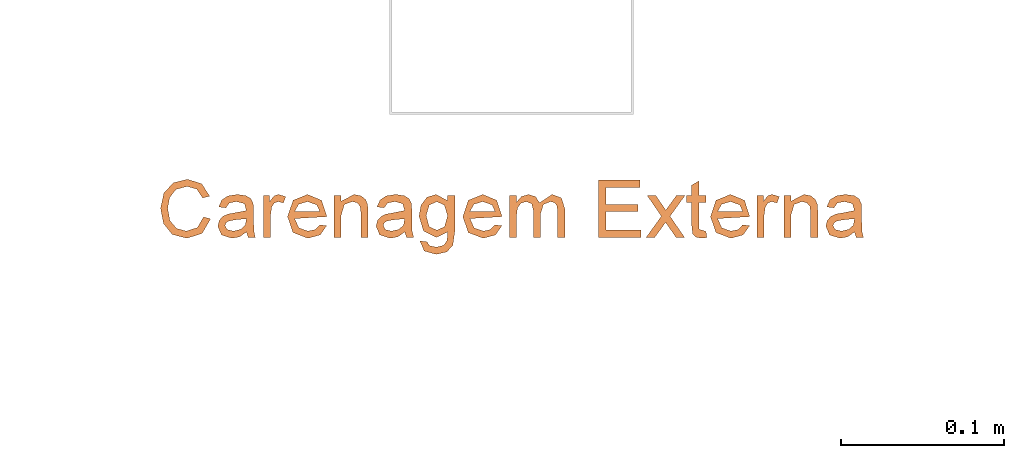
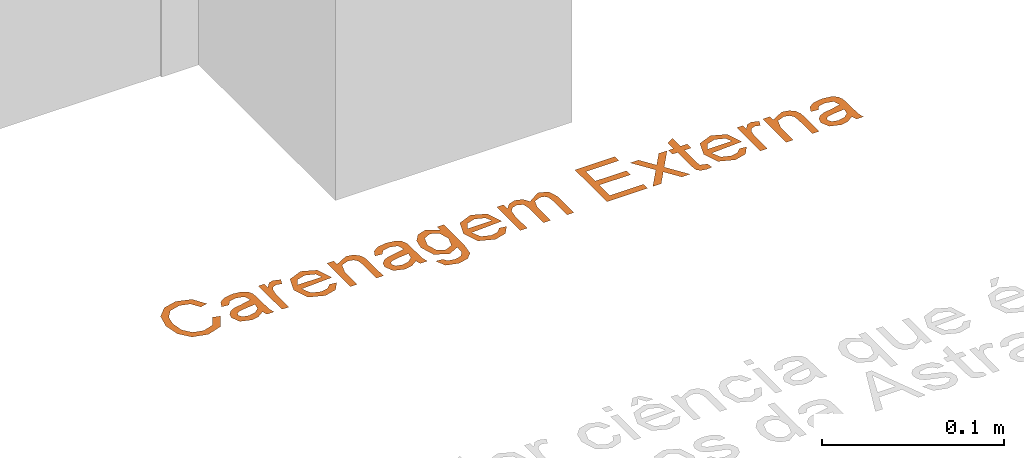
# One storey, part 4 of 5: 1 proxy.
"""IFC2X3 building model written with IfcOpenShell, lengths in millimetres."""

import ifcopenshell
import ifcopenshell.guid

model = None  # the IFC model being written
_history = None  # IfcOwnerHistory: only IFC2X3 demands one
_inside = {}  # id of a spatial element -> (the spatial element, [elements in it])
_under = {}  # id of a project, library or spatial element -> (it, [spatial elements below it])
_declared = {}  # id of a project -> (the project, [libraries it declares])
_typed = {}  # id of a type object -> (the type object, [elements of that type])
_made_of = {}  # id of a material, layer set ... -> (it, [elements and type objects made of it])


def new_model(schema):
    """Start an empty IFC model of exactly this schema.

    Asked for "IFC4X3", IfcOpenShell would pick the latest addendum, in which some entities
    have other attributes; the version numbers below select the first issue.
    IFC2X3 requires an IfcOwnerHistory on every rooted entity: one is made here for all.
    """
    global model, _history
    if schema == "IFC4X3":
        model = ifcopenshell.file(schema_version=(4, 3, 0, 0))
    else:
        model = ifcopenshell.file(schema=schema)
    _inside.clear()
    _under.clear()
    _declared.clear()
    _typed.clear()
    _made_of.clear()
    _history = None
    if model.schema == "IFC2X3":
        org = make("IfcOrganization", Name="unknown")
        user = make(
            "IfcPersonAndOrganization",
            ThePerson=make("IfcPerson", FamilyName="unknown"),
            TheOrganization=org,
        )
        app = make(
            "IfcApplication",
            ApplicationDeveloper=org,
            Version="unknown",
            ApplicationFullName="unknown",
            ApplicationIdentifier="unknown",
        )
        _history = make(
            "IfcOwnerHistory",
            OwningUser=user,
            OwningApplication=app,
            ChangeAction="ADDED",
            CreationDate=0,
        )
    return model


def make(cls, **values):
    """One entity of the class cls with the attributes given. An attribute that is None is left unset."""
    return model.create_entity(
        cls, **{name: value for name, value in values.items() if value is not None}
    )


def entity(cls, *values):
    """Any entity or typed value of the class cls, its attributes in the order of the schema. None: left unset."""
    e = model.create_entity(cls)
    for i, value in enumerate(values):
        if value is not None:
            e[i] = value
    return e


def rooted(cls, **values):
    """An entity with a GlobalId (a new one), such as an element, a storey or a relation."""
    return make(cls, GlobalId=ifcopenshell.guid.new(), OwnerHistory=_history, **values)


def si_unit(unit_type, name, prefix=None):
    """IfcSIUnit, for example si_unit("LENGTHUNIT", "METRE", prefix="MILLI")."""
    return make("IfcSIUnit", UnitType=unit_type, Prefix=prefix, Name=name)


def converted_unit(unit_type, name, factor, base, dimensions=None, offset=None):
    """IfcConversionBasedUnit, such as the inch: factor (a typed value) times the base unit."""
    return make(
        "IfcConversionBasedUnit"
        if offset is None
        else "IfcConversionBasedUnitWithOffset",
        ConversionOffset=offset,
        Dimensions=None
        if dimensions is None
        else entity("IfcDimensionalExponents", *dimensions),
        UnitType=unit_type,
        Name=name,
        ConversionFactor=make(
            "IfcMeasureWithUnit", ValueComponent=factor, UnitComponent=base
        ),
    )


def derived_unit(unit_type, elements):
    """IfcDerivedUnit: a product of units, each with its exponent."""
    return make(
        "IfcDerivedUnit",
        Elements=[
            make("IfcDerivedUnitElement", Unit=unit, Exponent=power)
            for unit, power in elements
        ],
        UnitType=unit_type,
    )


def assignment(units):
    """IfcUnitAssignment: the units of a project."""
    return None if units is None else make("IfcUnitAssignment", Units=units)


def point(xyz):
    """IfcCartesianPoint."""
    return None if xyz is None else make("IfcCartesianPoint", Coordinates=xyz)


def direction(xyz):
    """IfcDirection."""
    return None if xyz is None else make("IfcDirection", DirectionRatios=xyz)


def frame(location, z_axis=None, x_axis=None):
    """IfcAxis2Placement3D, a coordinate frame: its origin and axes. An axis left out is left unset."""
    return make(
        "IfcAxis2Placement3D",
        Location=point(location),
        Axis=direction(z_axis),
        RefDirection=direction(x_axis),
    )


def origin():
    """The frame at (0, 0, 0) with its axes left unset."""
    return frame((0.0, 0.0, 0.0))


def place(relative_to, where):
    """IfcLocalPlacement: puts the frame where relative to a parent placement (None: the world)."""
    return make(
        "IfcLocalPlacement", PlacementRelTo=relative_to, RelativePlacement=where
    )


def context(
    kind, dimensions, precision=None, world=None, true_north=None, identifier=None
):
    """IfcGeometricRepresentationContext, for example the 3D "Model" context."""
    return make(
        "IfcGeometricRepresentationContext",
        ContextIdentifier=identifier,
        ContextType=kind,
        CoordinateSpaceDimension=dimensions,
        Precision=precision,
        WorldCoordinateSystem=world,
        TrueNorth=true_north,
    )


def subcontext(parent, identifier, kind, view, scale=None):
    """IfcGeometricRepresentationSubContext, for example "Body" below "Model"."""
    return make(
        "IfcGeometricRepresentationSubContext",
        ContextIdentifier=identifier,
        ContextType=kind,
        ParentContext=parent,
        TargetScale=scale,
        TargetView=view,
    )


def project(units=None, contexts=None):
    """IfcProject with its units and contexts."""
    return rooted(
        "IfcProject",
        Name="project",
        RepresentationContexts=contexts,
        UnitsInContext=assignment(units),
    )


def spatial(cls, under=None, at=None, **own):
    """A site, building, storey or space (cls), placed at a placement, below another one or the project."""
    s = rooted(cls, ObjectPlacement=at, **own)
    if under is not None:
        _under.setdefault(under.id(), (under, []))[1].append(s)
    return s


def faces_of(points, faces, orient=None, outer=None):
    """IfcFace entities. A face is a list of loops; a loop is a list of indices into points, from 0.

    orient and outer hold one flag for each loop. By default every Orientation is true, the
    first loop of a face is its IfcFaceOuterBound and the others are IfcFaceBound.
    """
    made = []
    for i, loops in enumerate(faces):
        bounds = []
        for j, loop in enumerate(loops):
            is_outer = j == 0 if outer is None else outer[i][j]
            bounds.append(
                make(
                    "IfcFaceOuterBound" if is_outer else "IfcFaceBound",
                    Bound=make("IfcPolyLoop", Polygon=[points[k] for k in loop]),
                    Orientation=True if orient is None else orient[i][j],
                )
            )
        made.append(make("IfcFace", Bounds=bounds))
    return made


def face_set(faces, orient=None, outer=None):
    """The faces of one IfcConnectedFaceSet. surface_model builds it on its shared points."""
    return ("IfcConnectedFaceSet", faces, orient, outer)


def surface_model(cls, points, shells):
    """IfcFaceBasedSurfaceModel or IfcShellBasedSurfaceModel (cls): surfaces that need not close."""
    shared = [point(p) for p in points]
    made = [make(c, CfsFaces=faces_of(shared, fs, o, b)) for c, fs, o, b in shells]
    if cls == "IfcFaceBasedSurfaceModel":
        return make(cls, FbsmFaces=made)
    return make(cls, SbsmBoundary=made)


def shape(context_of_items, identifier, shape_type, items):
    """IfcShapeRepresentation: the items that make up one representation, for example the "Body"."""
    return make(
        "IfcShapeRepresentation",
        ContextOfItems=context_of_items,
        RepresentationIdentifier=identifier,
        RepresentationType=shape_type,
        Items=items,
    )


def made_of(thing, what):
    """Note that an element or type object is made of a material, layer set ...; save() writes the relation."""
    if what is not None:
        _made_of.setdefault(what.id(), (what, []))[1].append(thing)
    return thing


def type_object(cls, material=None, **own):
    """A type object (cls), such as IfcWallType, which elements share."""
    return made_of(rooted(cls, **own), material)


def element(
    cls,
    number,
    at=None,
    inside=None,
    cuts=None,
    type_object=None,
    material=None,
    context=None,
    identifier="Body",
    shape_type=None,
    held_by="IfcProductDefinitionShape",
    body=None,
    shapes=None,
    **own,
):
    """One element of the class cls, such as IfcWall. Its Tag is "e" and its number.

    at: its placement. inside: the storey or other place that contains it. cuts: it is an
    opening in that element (IfcRelVoidsElement). A single representation is given by context,
    identifier, shape_type and body (its items); several are given by shapes. held_by: the class
    of the entity that holds the representations. save() writes the other relations.
    """
    e = rooted(cls, Tag="e%d" % number, ObjectPlacement=at, **own)
    if body is not None:
        shapes = [shape(context, identifier, shape_type, body)]
    if shapes is not None:
        e.Representation = make(held_by, Representations=shapes)
    if inside is not None:
        _inside.setdefault(inside.id(), (inside, []))[1].append(e)
    if cuts is not None:
        rooted(
            "IfcRelVoidsElement", RelatingBuildingElement=cuts, RelatedOpeningElement=e
        )
    if type_object is not None:
        _typed.setdefault(type_object.id(), (type_object, []))[1].append(e)
    return made_of(e, material)


def aggregate(whole, parts):
    """IfcRelAggregates: a whole, such as a stair, and the parts it consists of."""
    return rooted("IfcRelAggregates", RelatingObject=whole, RelatedObjects=parts)


def save(model, path):
    """Write the relations noted so far, then the file.

    IfcRelAggregates (storeys below a building ...), IfcRelContainedInSpatialStructure (elements
    in a storey), IfcRelDefinesByType, IfcRelAssociatesMaterial and IfcRelDeclares: one each for
    every whole, place, type object, material and project.
    """
    for whole, parts in _under.values():
        aggregate(whole, parts)
    for where, things in _inside.values():
        rooted(
            "IfcRelContainedInSpatialStructure",
            RelatedElements=things,
            RelatingStructure=where,
        )
    for kind, things in _typed.values():
        rooted("IfcRelDefinesByType", RelatedObjects=things, RelatingType=kind)
    for what, things in _made_of.values():
        rooted("IfcRelAssociatesMaterial", RelatedObjects=things, RelatingMaterial=what)
    for by, libraries in _declared.values():
        rooted("IfcRelDeclares", RelatingContext=by, RelatedDefinitions=libraries)
    model.write(path)


model = new_model("IFC2X3")

# Units and contexts
model_context = context("Model", 3, precision=0.01, world=origin(), true_north=direction((6.12303176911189e-17, 1.0)))
body_context = subcontext(model_context, "Body", "Model", "MODEL_VIEW")
ifc_project = project(units=[si_unit("LENGTHUNIT", "METRE", prefix="MILLI"), si_unit("AREAUNIT", "SQUARE_METRE"), si_unit("VOLUMEUNIT", "CUBIC_METRE"), converted_unit("PLANEANGLEUNIT", "DEGREE", entity("IfcRatioMeasure", 0.0174532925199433), si_unit("PLANEANGLEUNIT", "RADIAN"), dimensions=[0, 0, 0, 0, 0, 0, 0]), si_unit("MASSUNIT", "GRAM", prefix="KILO"), derived_unit("MASSDENSITYUNIT", [(si_unit("MASSUNIT", "GRAM", prefix="KILO"), 1), (si_unit("LENGTHUNIT", "METRE"), -3)]), derived_unit("MOMENTOFINERTIAUNIT", [(si_unit("LENGTHUNIT", "METRE"), 4)]), si_unit("TIMEUNIT", "SECOND"), si_unit("FREQUENCYUNIT", "HERTZ"), si_unit("THERMODYNAMICTEMPERATUREUNIT", "DEGREE_CELSIUS"), derived_unit("THERMALTRANSMITTANCEUNIT", [(si_unit("MASSUNIT", "GRAM", prefix="KILO"), 1), (si_unit("THERMODYNAMICTEMPERATUREUNIT", "KELVIN"), -1), (si_unit("TIMEUNIT", "SECOND"), -3)]), derived_unit("VOLUMETRICFLOWRATEUNIT", [(si_unit("LENGTHUNIT", "METRE"), 3), (si_unit("TIMEUNIT", "SECOND"), -1)]), si_unit("ELECTRICCURRENTUNIT", "AMPERE"), si_unit("ELECTRICVOLTAGEUNIT", "VOLT"), si_unit("POWERUNIT", "WATT"), si_unit("FORCEUNIT", "NEWTON", prefix="KILO"), si_unit("ILLUMINANCEUNIT", "LUX"), si_unit("LUMINOUSFLUXUNIT", "LUMEN"), si_unit("LUMINOUSINTENSITYUNIT", "CANDELA"), derived_unit("USERDEFINED", [(si_unit("MASSUNIT", "GRAM", prefix="KILO"), -1), (si_unit("LENGTHUNIT", "METRE"), -2), (si_unit("TIMEUNIT", "SECOND"), 3), (si_unit("LUMINOUSFLUXUNIT", "LUMEN"), 1)]), derived_unit("LINEARVELOCITYUNIT", [(si_unit("LENGTHUNIT", "METRE"), 1), (si_unit("TIMEUNIT", "SECOND"), -1)]), si_unit("PRESSUREUNIT", "PASCAL"), derived_unit("USERDEFINED", [(si_unit("LENGTHUNIT", "METRE"), -2), (si_unit("MASSUNIT", "GRAM", prefix="KILO"), 1), (si_unit("TIMEUNIT", "SECOND"), -2)]), derived_unit("LINEARFORCEUNIT", [(si_unit("MASSUNIT", "GRAM", prefix="KILO"), 1), (si_unit("LENGTHUNIT", "METRE"), 1), (si_unit("TIMEUNIT", "SECOND"), -2), (si_unit("LENGTHUNIT", "METRE"), -1)]), derived_unit("PLANARFORCEUNIT", [(si_unit("MASSUNIT", "GRAM", prefix="KILO"), 1), (si_unit("LENGTHUNIT", "METRE"), 1), (si_unit("TIMEUNIT", "SECOND"), -2), (si_unit("LENGTHUNIT", "METRE"), -2)])], contexts=[model_context])

# Site, building, storey
site_placement = place(None, origin())
site = spatial("IfcSite", under=ifc_project, at=site_placement, Name="Default", CompositionType="ELEMENT")
building_placement = place(site_placement, origin())
building = spatial("IfcBuilding", under=site, at=building_placement, CompositionType="ELEMENT")
storey_placement = place(building_placement, origin())
storey = spatial("IfcBuildingStorey", under=building, at=storey_placement, Name="Vista Principal", CompositionType="ELEMENT", Elevation=0.0)

# Proxy
building_element_proxy_type = type_object("IfcBuildingElementProxyType", Name="Texto do modelo:600mm Arial", PredefinedType="NOTDEFINED")
proxy_placement = place(storey_placement, frame((-10837.4119871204, 5328.07441846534, 0.0)))
element("IfcBuildingElementProxy", 1, at=proxy_placement, inside=storey, type_object=building_element_proxy_type, Name="Texto do modelo:600mm Arial", ObjectType="Texto do modelo:600mm Arial", context=body_context, shape_type="SurfaceModel", body=[
    surface_model("IfcFaceBasedSurfaceModel", [(26.3697814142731, 22.9362161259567, 0.0), (22.6400711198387, 16.4639455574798, 0.0), (15.9145751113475, 14.2836315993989, 0.0), (9.85004042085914, 15.8845314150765, 0.0), (5.72117816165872, 20.7215665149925, 0.0), (4.39496356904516, 28.2925779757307, 0.0), (5.51516424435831, 34.824935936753, 0.0), (9.39938497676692, 39.8722769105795, 0.0), (16.2750994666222, 41.7521539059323, 0.0), (22.2151674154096, 40.0568310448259, 0.0), (25.8204109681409, 34.6532576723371, 0.0), (30.2153745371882, 35.7004950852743, 0.0), (25.24958073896, 43.4088491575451, 0.0), (16.446777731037, 46.1471174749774, 0.0), (8.00020712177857, 44.0311828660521, 0.0), (2.08159895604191, 37.8378894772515, 0.0), (0.0, 28.2839940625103, 0.0), (1.84124938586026, 18.8846090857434, 0.0), (7.20619514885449, 12.1977406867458, 0.0), (16.3523546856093, 9.88866803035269, 0.0), (25.5543096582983, 12.9402491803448, 0.0), (30.7647449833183, 21.803139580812, 0.0), (52.7395628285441, 13.7342611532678, 0.0), (53.8383037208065, 10.4380384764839, 0.0), (58.2332672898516, 10.4380384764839, 0.0), (57.3577081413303, 14.1334131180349, 0.0), (57.1345263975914, 21.7688039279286, 0.0), (57.1345263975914, 27.2367566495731, 0.0), (56.9199285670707, 31.0823497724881, 0.0), (55.5722541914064, 34.0652596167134, 0.0), (52.5635926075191, 36.0266837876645, 0.0), (47.2372744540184, 36.8078198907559, 0.0), (41.4388410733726, 35.9236768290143, 0.0), (37.6104157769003, 33.4085902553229, 0.0), (35.7090789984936, 29.1166336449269, 0.0), (40.1040425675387, 28.5672631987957, 0.0), (42.2242691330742, 31.5673408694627, 0.0), (46.6707361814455, 32.4128563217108, 0.0), (51.5292310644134, 31.1424371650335, 0.0), (52.7138110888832, 26.9191518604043, 0.0), (45.0912961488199, 25.4083831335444, 0.0), (41.2886225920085, 24.7474218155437, 0.0), (38.2112897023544, 23.3053243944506, 0.0), (36.0009320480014, 20.7816539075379, 0.0), (35.1597085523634, 17.3051690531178, 0.0), (37.3872340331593, 11.9745589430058, 0.0), (43.7693735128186, 9.88866803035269, 0.0), (48.4776499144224, 10.7556432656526, 0.0), (52.7266869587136, 21.901854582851, 0.0), (52.0185141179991, 17.8802912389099, 0.0), (49.1514871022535, 15.3351609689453, 0.0), (44.7050200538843, 14.2836315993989, 0.0), (40.8637188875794, 15.2364459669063, 0.0), (39.5546721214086, 17.6141899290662, 0.0), (40.1555460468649, 19.3052208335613, 0.0), (41.8680367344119, 20.4640491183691, 0.0), (45.6492505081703, 21.1765139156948, 0.0), (63.1776013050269, 10.4380384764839, 0.0), (67.5725648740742, 10.4380384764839, 0.0), (67.5725648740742, 24.009205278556, 0.0), (68.2850296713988, 29.1423853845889, 0.0), (69.8687616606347, 31.5458810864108, 0.0), (72.3538045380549, 32.4128563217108, 0.0), (75.4440132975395, 31.5115454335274, 0.0), (76.9118624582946, 35.4515616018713, 0.0), (72.4997310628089, 36.8078198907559, 0.0), (69.752878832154, 35.9580124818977, 0.0), (67.0231944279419, 32.4386080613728, 0.0), (67.0231944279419, 36.2584494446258, 0.0), (63.1776013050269, 36.2584494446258, 0.0), (97.7364359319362, 18.1292247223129, 0.0), (94.9037445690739, 15.2021103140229, 0.0), (90.5946201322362, 14.2836315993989, 0.0), (84.933529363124, 16.2665155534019, 0.0), (82.4055669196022, 21.974817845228, 0.0), (102.182902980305, 23.1593978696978, 0.0), (98.8480526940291, 33.2283280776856, 0.0), (90.2598475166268, 36.8078198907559, 0.0), (81.4184168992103, 33.2197441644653, 0.0), (78.010603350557, 23.1336461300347, 0.0), (81.3840812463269, 13.369444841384, 0.0), (90.5087810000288, 9.88866803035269, 0.0), (98.0154131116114, 11.905887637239, 0.0), (102.045560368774, 17.5798542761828, 0.0), (82.4055669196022, 26.3697814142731, 0.0), (84.8305224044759, 30.7690369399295, 0.0), (90.242679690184, 32.4128563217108, 0.0), (96.0282372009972, 30.3527171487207, 0.0), (97.7879394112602, 26.3697814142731, 0.0), (106.577866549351, 10.4380384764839, 0.0), (110.972830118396, 10.4380384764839, 0.0), (110.972830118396, 24.1379639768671, 0.0), (112.977173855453, 30.6874897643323, 0.0), (117.745537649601, 32.4128563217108, 0.0), (120.762783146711, 31.6445960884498, 0.0), (122.552529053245, 29.5887488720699, 0.0), (123.058979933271, 25.7002361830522, 0.0), (123.058979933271, 10.4380384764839, 0.0), (127.453943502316, 10.4380384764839, 0.0), (127.453943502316, 26.292526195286, 0.0), (127.222177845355, 30.5415632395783, 0.0), (125.904547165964, 33.7734065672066, 0.0), (123.071855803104, 35.9708883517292, 0.0), (118.92153376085, 36.8078198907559, 0.0), (110.972830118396, 32.6532058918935, 0.0), (110.972830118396, 36.2584494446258, 0.0), (106.577866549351, 36.2584494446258, 0.0), (149.978131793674, 13.7342611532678, 0.0), (151.076872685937, 10.4380384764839, 0.0), (155.471836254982, 10.4380384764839, 0.0), (154.59627710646, 14.1334131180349, 0.0), (154.373095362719, 21.7688039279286, 0.0), (154.373095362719, 27.2367566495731, 0.0), (154.158497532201, 31.0823497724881, 0.0), (152.810823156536, 34.0652596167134, 0.0), (149.802161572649, 36.0266837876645, 0.0), (144.475843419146, 36.8078198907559, 0.0), (138.677410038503, 35.9236768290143, 0.0), (134.848984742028, 33.4085902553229, 0.0), (132.947647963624, 29.1166336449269, 0.0), (137.342611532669, 28.5672631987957, 0.0), (139.462838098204, 31.5673408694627, 0.0), (143.909305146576, 32.4128563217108, 0.0), (148.767800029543, 31.1424371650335, 0.0), (149.952380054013, 26.9191518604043, 0.0), (142.32986511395, 25.4083831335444, 0.0), (138.527191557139, 24.7474218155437, 0.0), (135.449858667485, 23.3053243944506, 0.0), (133.239501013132, 20.7816539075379, 0.0), (132.398277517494, 17.3051690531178, 0.0), (134.625802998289, 11.9745589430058, 0.0), (141.007942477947, 9.88866803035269, 0.0), (145.716218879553, 10.7556432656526, 0.0), (149.965255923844, 21.901854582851, 0.0), (149.257083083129, 17.8802912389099, 0.0), (146.390056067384, 15.3351609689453, 0.0), (141.943589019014, 14.2836315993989, 0.0), (138.10228785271, 15.2364459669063, 0.0), (136.793241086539, 17.6141899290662, 0.0), (137.394115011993, 19.3052208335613, 0.0), (139.106605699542, 20.4640491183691, 0.0), (142.8878194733, 21.1765139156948, 0.0), (159.317429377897, 8.2405566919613, 0.0), (162.008486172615, 2.05584721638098, 0.0), (169.317688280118, 0.0, 0.0), (175.734163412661, 1.45926524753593, 0.0), (179.541128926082, 5.42932511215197, 0.0), (180.742876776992, 13.9660268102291, 0.0), (180.742876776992, 36.2584494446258, 0.0), (176.347913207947, 36.2584494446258, 0.0), (176.347913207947, 32.9622267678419, 0.0), (169.266184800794, 36.8078198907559, 0.0), (163.665181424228, 35.1082050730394, 0.0), (160.025602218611, 30.2883377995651, 0.0), (158.768058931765, 23.4770026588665, 0.0), (161.570706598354, 14.2750476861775, 0.0), (169.480782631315, 10.4380384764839, 0.0), (176.347913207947, 13.7342611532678, 0.0), (176.047476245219, 8.60966496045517, 0.0), (173.901497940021, 5.50228837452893, 0.0), (169.403527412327, 4.39496356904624, 0.0), (165.137322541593, 5.37352967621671, 0.0), (163.712392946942, 7.69118624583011, 0.0), (163.163022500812, 23.7774396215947, 0.0), (165.064359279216, 30.23683432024, 0.0), (169.678212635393, 32.4128563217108, 0.0), (174.390780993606, 30.2024986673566, 0.0), (176.347913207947, 23.6486809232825, 0.0), (174.446576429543, 16.9618125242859, 0.0), (169.746883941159, 14.833002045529, 0.0), (165.038607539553, 16.9746883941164, 0.0), (205.413043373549, 18.1292247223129, 0.0), (202.580352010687, 15.2021103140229, 0.0), (198.271227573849, 14.2836315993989, 0.0), (192.610136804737, 16.2665155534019, 0.0), (190.082174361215, 21.974817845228, 0.0), (209.859510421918, 23.1593978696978, 0.0), (206.52466013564, 33.2283280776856, 0.0), (197.936454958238, 36.8078198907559, 0.0), (189.095024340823, 33.2197441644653, 0.0), (185.687210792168, 23.1336461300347, 0.0), (189.06068868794, 13.369444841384, 0.0), (198.185388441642, 9.88866803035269, 0.0), (205.692020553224, 11.905887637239, 0.0), (209.722167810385, 17.5798542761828, 0.0), (190.082174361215, 26.3697814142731, 0.0), (192.507129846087, 30.7690369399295, 0.0), (197.919287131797, 32.4128563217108, 0.0), (203.70484464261, 30.3527171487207, 0.0), (205.464546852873, 26.3697814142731, 0.0), (214.254473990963, 10.4380384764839, 0.0), (218.649437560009, 10.4380384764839, 0.0), (218.649437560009, 23.4598348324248, 0.0), (219.318982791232, 28.7046058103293, 0.0), (221.482128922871, 31.4686258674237, 0.0), (224.73543203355, 32.4128563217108, 0.0), (228.070282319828, 30.9965106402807, 0.0), (229.087476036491, 26.7388896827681, 0.0), (229.087476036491, 10.4380384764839, 0.0), (233.482439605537, 10.4380384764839, 0.0), (233.482439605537, 25.0135231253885, 0.0), (235.203514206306, 30.6531541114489, 0.0), (239.525514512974, 32.4128563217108, 0.0), (242.036309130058, 31.7261432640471, 0.0), (243.512742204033, 29.9192295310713, 0.0), (243.920478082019, 26.2496066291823, 0.0), (243.920478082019, 10.4380384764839, 0.0), (248.315441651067, 10.4380384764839, 0.0), (248.315441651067, 28.1380675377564, 0.0), (246.302514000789, 34.6833013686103, 0.0), (240.55558409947, 36.8078198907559, 0.0), (232.795726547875, 31.700391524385, 0.0), (230.375063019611, 35.4644374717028, 0.0), (225.971515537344, 36.8078198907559, 0.0), (221.670975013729, 35.4901892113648, 0.0), (218.649437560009, 32.0094124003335, 0.0), (218.649437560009, 36.2584494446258, 0.0), (214.254473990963, 36.2584494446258, 0.0), (269.191518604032, 10.4380384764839, 0.0), (295.011929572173, 10.4380384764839, 0.0), (295.011929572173, 14.833002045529, 0.0), (273.586482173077, 14.833002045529, 0.0), (273.586482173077, 26.3697814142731, 0.0), (293.363818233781, 26.3697814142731, 0.0), (293.363818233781, 30.7647449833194, 0.0), (273.586482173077, 30.7647449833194, 0.0), (273.586482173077, 41.2027834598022, 0.0), (294.462559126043, 41.2027834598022, 0.0), (294.462559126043, 45.5977470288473, 0.0), (269.191518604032, 45.5977470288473, 0.0), (298.308152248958, 10.4380384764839, 0.0), (303.595842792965, 10.4380384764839, 0.0), (310.27412727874, 19.6657451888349, 0.0), (311.261277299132, 18.2408155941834, 0.0), (316.643390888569, 10.4380384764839, 0.0), (321.931081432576, 10.4380384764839, 0.0), (312.986643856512, 23.4169152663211, 0.0), (322.274437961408, 36.2584494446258, 0.0), (316.986747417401, 36.2584494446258, 0.0), (312.128252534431, 29.5458293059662, 0.0), (310.402885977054, 27.159501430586, 0.0), (308.411418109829, 30.0780319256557, 0.0), (304.145213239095, 36.2584494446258, 0.0), (298.857522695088, 36.2584494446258, 0.0), (307.698953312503, 23.4169152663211, 0.0), (335.115972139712, 14.1033694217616, 0.0), (330.952774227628, 15.3823724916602, 0.0), (330.721008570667, 17.6485255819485, 0.0), (330.721008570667, 31.8634858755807, 0.0), (335.115972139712, 31.8634858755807, 0.0), (335.115972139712, 36.2584494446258, 0.0), (330.721008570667, 36.2584494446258, 0.0), (330.721008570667, 45.1170478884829, 0.0), (326.326045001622, 42.5332900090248, 0.0), (326.326045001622, 36.2584494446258, 0.0), (323.029822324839, 36.2584494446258, 0.0), (323.029822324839, 31.8634858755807, 0.0), (326.326045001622, 31.8634858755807, 0.0), (326.326045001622, 17.5197668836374, 0.0), (326.858247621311, 12.5325133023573, 0.0), (328.695205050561, 10.6183006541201, 0.0), (332.37770382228, 9.88866803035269, 0.0), (335.665342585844, 10.3092797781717, 0.0), (357.588656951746, 18.1292247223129, 0.0), (354.755965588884, 15.2021103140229, 0.0), (350.446841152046, 14.2836315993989, 0.0), (344.785750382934, 16.2665155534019, 0.0), (342.257787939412, 21.974817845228, 0.0), (362.035124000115, 23.1593978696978, 0.0), (358.700273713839, 33.2283280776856, 0.0), (350.112068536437, 36.8078198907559, 0.0), (341.27063791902, 33.2197441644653, 0.0), (337.862824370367, 23.1336461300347, 0.0), (341.236302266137, 13.369444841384, 0.0), (350.361002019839, 9.88866803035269, 0.0), (357.867634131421, 11.905887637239, 0.0), (361.897781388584, 17.5798542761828, 0.0), (342.257787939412, 26.3697814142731, 0.0), (344.682743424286, 30.7690369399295, 0.0), (350.094900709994, 32.4128563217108, 0.0), (355.880458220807, 30.3527171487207, 0.0), (357.64016043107, 26.3697814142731, 0.0), (366.43008756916, 10.4380384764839, 0.0), (370.825051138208, 10.4380384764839, 0.0), (370.825051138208, 24.009205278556, 0.0), (371.537515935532, 29.1423853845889, 0.0), (373.121247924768, 31.5458810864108, 0.0), (375.606290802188, 32.4128563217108, 0.0), (378.696499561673, 31.5115454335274, 0.0), (380.164348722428, 35.4515616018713, 0.0), (375.75221732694, 36.8078198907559, 0.0), (373.005365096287, 35.9580124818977, 0.0), (370.275680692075, 32.4386080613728, 0.0), (370.275680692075, 36.2584494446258, 0.0), (366.43008756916, 36.2584494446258, 0.0), (382.911200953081, 10.4380384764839, 0.0), (387.306164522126, 10.4380384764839, 0.0), (387.306164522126, 24.1379639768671, 0.0), (389.310508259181, 30.6874897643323, 0.0), (394.078872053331, 32.4128563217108, 0.0), (397.096117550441, 31.6445960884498, 0.0), (398.885863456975, 29.5887488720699, 0.0), (399.392314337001, 25.7002361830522, 0.0), (399.392314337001, 10.4380384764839, 0.0), (403.787277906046, 10.4380384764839, 0.0), (403.787277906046, 26.292526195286, 0.0), (403.555512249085, 30.5415632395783, 0.0), (402.237881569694, 33.7734065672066, 0.0), (399.405190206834, 35.9708883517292, 0.0), (395.25486816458, 36.8078198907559, 0.0), (387.306164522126, 32.6532058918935, 0.0), (387.306164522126, 36.2584494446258, 0.0), (382.911200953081, 36.2584494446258, 0.0), (426.311466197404, 13.7342611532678, 0.0), (427.410207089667, 10.4380384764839, 0.0), (431.805170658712, 10.4380384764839, 0.0), (430.929611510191, 14.1334131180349, 0.0), (430.70642976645, 21.7688039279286, 0.0), (430.70642976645, 27.2367566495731, 0.0), (430.491831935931, 31.0823497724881, 0.0), (429.144157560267, 34.0652596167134, 0.0), (426.135495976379, 36.0266837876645, 0.0), (420.809177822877, 36.8078198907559, 0.0), (415.010744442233, 35.9236768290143, 0.0), (411.182319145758, 33.4085902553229, 0.0), (409.280982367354, 29.1166336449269, 0.0), (413.675945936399, 28.5672631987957, 0.0), (415.796172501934, 31.5673408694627, 0.0), (420.242639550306, 32.4128563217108, 0.0), (425.101134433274, 31.1424371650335, 0.0), (426.285714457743, 26.9191518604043, 0.0), (418.66319951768, 25.4083831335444, 0.0), (414.860525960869, 24.7474218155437, 0.0), (411.783193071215, 23.3053243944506, 0.0), (409.572835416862, 20.7816539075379, 0.0), (408.731611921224, 17.3051690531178, 0.0), (410.95913740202, 11.9745589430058, 0.0), (417.341276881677, 9.88866803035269, 0.0), (422.049553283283, 10.7556432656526, 0.0), (426.298590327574, 21.901854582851, 0.0), (425.590417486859, 17.8802912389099, 0.0), (422.723390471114, 15.3351609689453, 0.0), (418.276923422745, 14.2836315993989, 0.0), (414.43562225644, 15.2364459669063, 0.0), (413.126575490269, 17.6141899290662, 0.0), (413.727449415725, 19.3052208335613, 0.0), (415.439940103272, 20.4640491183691, 0.0), (419.221153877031, 21.1765139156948, 0.0)], [face_set([[[0, 1, 2, 3, 4, 5, 6, 7, 8, 9, 10, 11, 12, 13, 14, 15, 16, 17, 18, 19, 20, 21]]]), face_set([[[22, 23, 24, 25, 26, 27, 28, 29, 30, 31, 32, 33, 34, 35, 36, 37, 38, 39, 40, 41, 42, 43, 44, 45, 46, 47], [48, 49, 50, 51, 52, 53, 54, 55, 56]]]), face_set([[[57, 58, 59, 60, 61, 62, 63, 64, 65, 66, 67, 68, 69]]]), face_set([[[70, 71, 72, 73, 74, 75, 76, 77, 78, 79, 80, 81, 82, 83], [84, 85, 86, 87, 88]]]), face_set([[[89, 90, 91, 92, 93, 94, 95, 96, 97, 98, 99, 100, 101, 102, 103, 104, 105, 106]]]), face_set([[[107, 108, 109, 110, 111, 112, 113, 114, 115, 116, 117, 118, 119, 120, 121, 122, 123, 124, 125, 126, 127, 128, 129, 130, 131, 132], [133, 134, 135, 136, 137, 138, 139, 140, 141]]]), face_set([[[142, 143, 144, 145, 146, 147, 148, 149, 150, 151, 152, 153, 154, 155, 156, 157, 158, 159, 160, 161, 162], [163, 164, 165, 166, 167, 168, 169, 170]]]), face_set([[[171, 172, 173, 174, 175, 176, 177, 178, 179, 180, 181, 182, 183, 184], [185, 186, 187, 188, 189]]]), face_set([[[190, 191, 192, 193, 194, 195, 196, 197, 198, 199, 200, 201, 202, 203, 204, 205, 206, 207, 208, 209, 210, 211, 212, 213, 214, 215, 216, 217]]]), face_set([[[218, 219, 220, 221, 222, 223, 224, 225, 226, 227, 228, 229]]]), face_set([[[230, 231, 232, 233, 234, 235, 236, 237, 238, 239, 240, 241, 242, 243, 244]]]), face_set([[[245, 246, 247, 248, 249, 250, 251, 252, 253, 254, 255, 256, 257, 258, 259, 260, 261, 262]]]), face_set([[[263, 264, 265, 266, 267, 268, 269, 270, 271, 272, 273, 274, 275, 276], [277, 278, 279, 280, 281]]]), face_set([[[282, 283, 284, 285, 286, 287, 288, 289, 290, 291, 292, 293, 294]]]), face_set([[[295, 296, 297, 298, 299, 300, 301, 302, 303, 304, 305, 306, 307, 308, 309, 310, 311, 312]]]), face_set([[[313, 314, 315, 316, 317, 318, 319, 320, 321, 322, 323, 324, 325, 326, 327, 328, 329, 330, 331, 332, 333, 334, 335, 336, 337, 338], [339, 340, 341, 342, 343, 344, 345, 346, 347]]])]),
])

save(model, "model.ifc")
